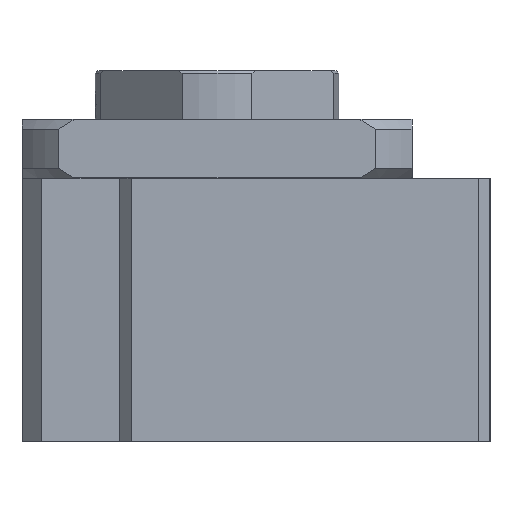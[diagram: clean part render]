
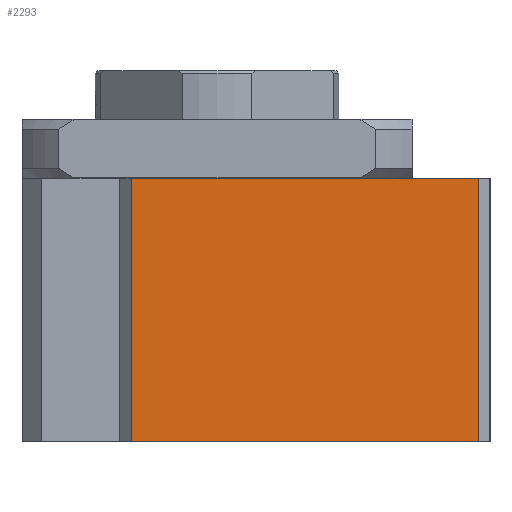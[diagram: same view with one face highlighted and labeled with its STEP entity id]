
A CAD part, left-side view. The second image highlights one B-rep face of the part: STEP entity #2293.
In plain terms, the highlighted planar face has unit normal (-1, 0, 0).
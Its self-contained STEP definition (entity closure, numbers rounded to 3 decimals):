
#117=LINE('',#3497,#289);
#130=LINE('',#3530,#302);
#131=LINE('',#3533,#303);
#132=LINE('',#3534,#304);
#289=VECTOR('',#2774,1000.);
#302=VECTOR('',#2797,1000.);
#303=VECTOR('',#2798,1000.);
#304=VECTOR('',#2799,1000.);
#453=PLANE('',#2493);
#591=ORIENTED_EDGE('',*,*,#1214,.F.);
#592=ORIENTED_EDGE('',*,*,#1215,.F.);
#593=ORIENTED_EDGE('',*,*,#1198,.T.);
#594=ORIENTED_EDGE('',*,*,#1216,.T.);
#1198=EDGE_CURVE('',#1509,#1510,#117,.T.);
#1214=EDGE_CURVE('',#1524,#1525,#130,.T.);
#1215=EDGE_CURVE('',#1509,#1524,#131,.T.);
#1216=EDGE_CURVE('',#1510,#1525,#132,.T.);
#1509=VERTEX_POINT('',#3498);
#1510=VERTEX_POINT('',#3499);
#1524=VERTEX_POINT('',#3531);
#1525=VERTEX_POINT('',#3532);
#1821=EDGE_LOOP('',(#591,#592,#593,#594));
#2043=FACE_BOUND('',#1821,.T.);
#2293=ADVANCED_FACE('',(#2043),#453,.T.);
#2493=AXIS2_PLACEMENT_3D('',#3529,#2795,#2796);
#2774=DIRECTION('',(0.,-1.,0.));
#2795=DIRECTION('',(-1.,0.,0.));
#2796=DIRECTION('',(0.,0.,1.));
#2797=DIRECTION('',(0.,-1.,0.));
#2798=DIRECTION('',(0.,0.,1.));
#2799=DIRECTION('',(0.,0.,1.));
#3497=CARTESIAN_POINT('',(-35.,8.8,-27.));
#3498=CARTESIAN_POINT('',(-35.,8.8,-27.));
#3499=CARTESIAN_POINT('',(-35.,-26.8,-27.));
#3529=CARTESIAN_POINT('',(-35.,8.8,-27.));
#3530=CARTESIAN_POINT('',(-35.,8.8,0.));
#3531=CARTESIAN_POINT('',(-35.,8.8,0.));
#3532=CARTESIAN_POINT('',(-35.,-26.8,0.));
#3533=CARTESIAN_POINT('',(-35.,8.8,-27.));
#3534=CARTESIAN_POINT('',(-35.,-26.8,-27.));
